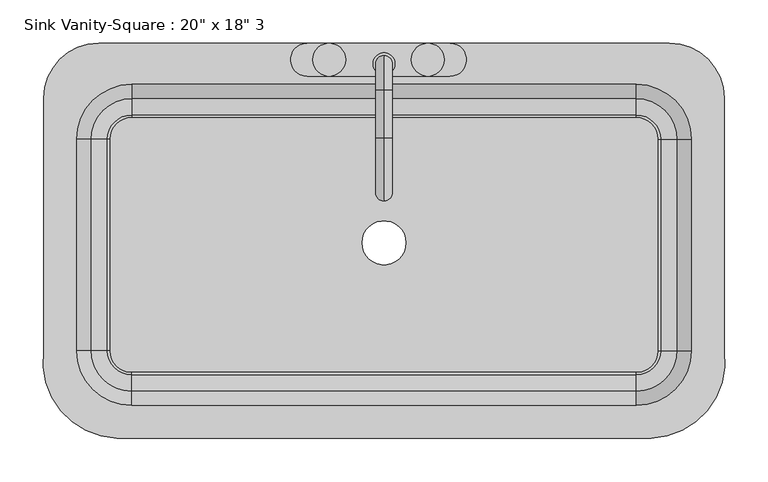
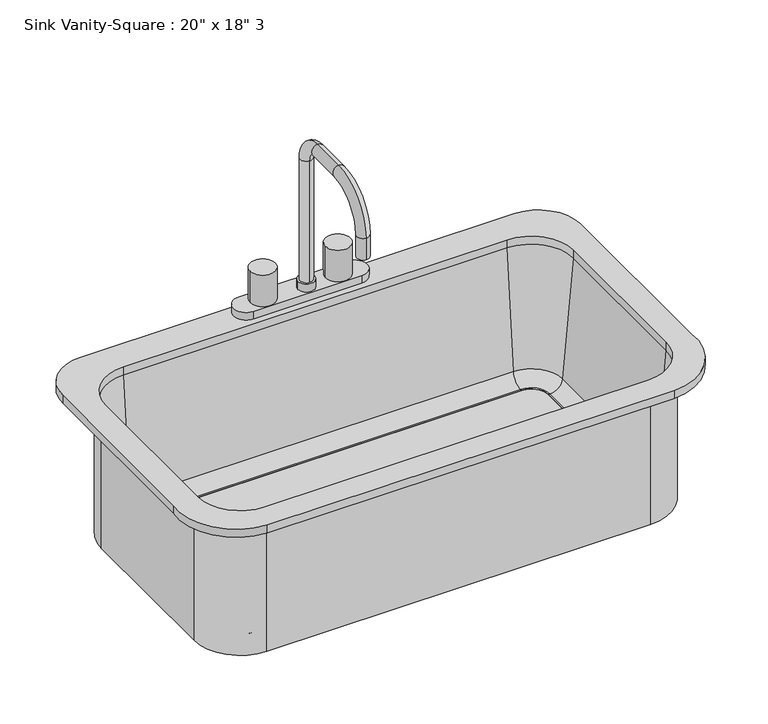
"""IFC4 building model written with IfcOpenShell, lengths in millimetres: flow terminal geometry."""

from ifc_helpers import new_model, si_unit, point, frame, frame_2d, origin, place, context, project, spatial, polyline, circle_curve, ellipse_curve, trimmed, segment, composite_curve, outline, extrude, source, transform, mapped, element, save
from ifc_brep_helpers import plane_surface, cylinder_surface, revolved_surface, advanced_brep


def flow_terminal_f29d4aba(model_context):
    return source(origin(), model_context, "Body", "SolidModel", [
        advanced_brep(
        [(-293.6606923, -277.0545989, 800.1), (325.0391735, -277.0545989, 800.1), (409.3892406, -175.4545989, 800.1), (409.3892406, 116.6454011, 800.1), (345.8892406, 180.1454011, 800.1), (-314.5107593, 180.1454011, 800.1), (-378.0107593, 116.6454011, 800.1), (-378.0107593, -175.4545982, 800.1), (307.7892406, 132.5204011, 800.1), (371.2892406, 69.0204011, 800.1), (371.2892406, -175.4545989, 800.1), (307.7892406, -238.9545989, 800.1), (-276.4107594, -238.9545989, 800.1), (-339.9107594, -175.4545989, 800.1), (-339.9107594, 69.0204011, 800.1), (-276.4107594, 132.5204011, 800.1), (-293.6606923, -277.0545989, 787.4), (-378.0107593, -175.4545982, 787.4), (-378.0107593, 116.6454011, 787.4), (-314.5107593, 180.1454011, 787.4), (345.8892406, 180.1454011, 787.4), (409.3892406, 116.6454011, 787.4), (409.3892406, -175.4545989, 787.4), (325.0391735, -277.0545989, 787.4), (377.6392406, 69.0204011, 787.4), (307.7892406, 138.8704011, 787.4), (-276.4107594, 138.8704011, 787.4), (-346.2607594, 69.0204011, 787.4), (-346.2607594, -175.4545989, 787.4), (-276.4107594, -245.3045989, 787.4), (307.7892406, -245.3045989, 787.4), (377.6392406, -175.4545989, 787.4), (307.7892406, 132.5204011, 787.4), (371.2892406, 69.0204011, 787.4), (371.2892406, -175.4545989, 787.4), (307.7892406, -238.9545989, 787.4), (-276.4107594, -238.9545989, 787.4), (-339.9107594, -175.4545989, 787.4), (-339.9107594, 69.0204011, 787.4), (-276.4107594, 132.5204011, 787.4), (377.6392406, 69.0204011, 571.5), (307.7892406, 138.8704011, 571.5), (333.1892406, 69.0204011, 571.5), (307.7892406, 94.4204011, 571.5), (333.1892406, 69.0204011, 581.025), (307.7892406, 94.4204011, 581.025), (335.7776588, 69.0204011, 581.025), (307.7892406, 97.0088193, 581.025), (354.7551678, 69.0204011, 598.4146831), (307.7892406, 115.9863283, 598.4146831), (377.6392406, -175.4545989, 571.5), (333.1892406, -175.4545989, 571.5), (333.1892406, -175.4545989, 581.025), (335.7776588, -175.4545989, 581.025), (354.7551678, -175.4545989, 598.4146831), (307.7892406, -245.3045989, 571.5), (307.7892406, -200.8545989, 571.5), (307.7892406, -200.8545989, 581.025), (307.7892406, -203.4430171, 581.025), (307.7892406, -222.4205261, 598.4146831), (-276.4107594, -245.3045989, 571.5), (-276.4107594, -200.8545989, 571.5), (-276.4107594, -200.8545989, 581.025), (-276.4107594, -203.4430171, 581.025), (-276.4107594, -222.4205261, 598.4146831), (-346.2607594, -175.4545989, 571.5), (-301.8107594, -175.4545989, 571.5), (-301.8107594, -175.4545989, 581.025), (-304.3991776, -175.4545989, 581.025), (-323.3766866, -175.4545989, 598.4146831), (-346.2607594, 69.0204011, 571.5), (-301.8107594, 69.0204011, 571.5), (-301.8107594, 69.0204011, 581.025), (-304.3991776, 69.0204011, 581.025), (-323.3766866, 69.0204011, 598.4146831), (-276.4107594, 138.8704011, 571.5), (-276.4107594, 94.4204011, 571.5), (-276.4107594, 94.4204011, 581.025), (-276.4107594, 97.0088193, 581.025), (-276.4107594, 115.9863283, 598.4146831)],
        [
            (0, 1),
            (1, 2, circle_curve(frame((321.2319557, -188.0793432, 800.1), z_axis=(0.0, 0.0, 1.0), x_axis=(1.0, 0.0, 0.0)), 89.0566732)),
            (2, 3),
            (3, 4, circle_curve(frame((345.8892406, 116.6454011, 800.1), z_axis=(0.0, 0.0, 1.0), x_axis=(1.0, 0.0, 0.0)), 63.5)),
            (4, 5),
            (5, 6, circle_curve(frame((-314.5107593, 116.6454011, 800.1), z_axis=(0.0, 0.0, 1.0), x_axis=(1.0, 0.0, 0.0)), 63.5)),
            (6, 7),
            (7, 0, circle_curve(frame((-289.8534746, -188.0793432, 800.1), z_axis=(0.0, 0.0, 1.0), x_axis=(1.0, 0.0, 0.0)), 89.0566732)),
            (8, 9, circle_curve(frame((307.7892406, 69.0204011, 800.1), z_axis=(0.0, 0.0, -1.0), x_axis=(1.0, 0.0, 0.0)), 63.5)),
            (9, 10),
            (10, 11, circle_curve(frame((307.7892406, -175.4545989, 800.1), z_axis=(0.0, 0.0, -1.0), x_axis=(1.0, 0.0, 0.0)), 63.5)),
            (11, 12),
            (12, 13, circle_curve(frame((-276.4107594, -175.4545989, 800.1), z_axis=(0.0, 0.0, -1.0), x_axis=(1.0, 0.0, 0.0)), 63.5)),
            (13, 14),
            (14, 15, circle_curve(frame((-276.4107594, 69.0204011, 800.1), z_axis=(0.0, 0.0, -1.0), x_axis=(1.0, 0.0, 0.0)), 63.5)),
            (15, 8),
            (16, 17, circle_curve(frame((-289.8534746, -188.0793432, 787.4), z_axis=(0.0, 0.0, -1.0), x_axis=(1.0, 0.0, 0.0)), 89.0566732)),
            (17, 18),
            (18, 19, circle_curve(frame((-314.5107593, 116.6454011, 787.4), z_axis=(0.0, 0.0, -1.0), x_axis=(1.0, 0.0, 0.0)), 63.5)),
            (19, 20),
            (20, 21, circle_curve(frame((345.8892406, 116.6454011, 787.4), z_axis=(0.0, 0.0, -1.0), x_axis=(1.0, 0.0, 0.0)), 63.5)),
            (21, 22),
            (22, 23, circle_curve(frame((321.2319557, -188.0793432, 787.4), z_axis=(0.0, 0.0, -1.0), x_axis=(1.0, 0.0, 0.0)), 89.0566732)),
            (23, 16),
            (24, 25, circle_curve(frame((307.7892406, 69.0204011, 787.4), z_axis=(0.0, 0.0, 1.0), x_axis=(0.0, 1.0, 0.0)), 69.85)),
            (25, 26),
            (26, 27, circle_curve(frame((-276.4107594, 69.0204011, 787.4), z_axis=(0.0, 0.0, 1.0), x_axis=(-1.0, 0.0, 0.0)), 69.85)),
            (27, 28),
            (28, 29, circle_curve(frame((-276.4107594, -175.4545989, 787.4), z_axis=(0.0, 0.0, 1.0), x_axis=(0.0, -1.0, 0.0)), 69.85)),
            (29, 30),
            (30, 31, circle_curve(frame((307.7892406, -175.4545989, 787.4), z_axis=(0.0, 0.0, 1.0), x_axis=(1.0, 0.0, 0.0)), 69.85)),
            (31, 24),
            (0, 16),
            (23, 1),
            (22, 2),
            (21, 3),
            (20, 4),
            (19, 5),
            (18, 6),
            (17, 7),
            (8, 32),
            (32, 33, circle_curve(frame((307.7892406, 69.0204011, 787.4), z_axis=(0.0, 0.0, -1.0), x_axis=(1.0, 0.0, 0.0)), 63.5)),
            (33, 9),
            (33, 34),
            (34, 10),
            (34, 35, circle_curve(frame((307.7892406, -175.4545989, 787.4), z_axis=(0.0, 0.0, -1.0), x_axis=(1.0, 0.0, 0.0)), 63.5)),
            (35, 11),
            (35, 36),
            (36, 12),
            (36, 37, circle_curve(frame((-276.4107594, -175.4545989, 787.4), z_axis=(0.0, 0.0, -1.0), x_axis=(1.0, 0.0, 0.0)), 63.5)),
            (37, 13),
            (37, 38),
            (38, 14),
            (38, 39, circle_curve(frame((-276.4107594, 69.0204011, 787.4), z_axis=(0.0, 0.0, -1.0), x_axis=(1.0, 0.0, 0.0)), 63.5)),
            (39, 15),
            (39, 32),
            (40, 41, circle_curve(frame((307.7892406, 69.0204011, 571.5), z_axis=(0.0, 0.0, 1.0), x_axis=(0.0, 1.0, 0.0)), 69.85)),
            (41, 25),
            (24, 40),
            (40, 42),
            (42, 43, circle_curve(frame((307.7892406, 69.0204011, 571.5), z_axis=(0.0, 0.0, 1.0), x_axis=(0.0, 1.0, 0.0)), 25.4)),
            (43, 41),
            (42, 44),
            (44, 45, circle_curve(frame((307.7892406, 69.0204011, 581.025), z_axis=(0.0, 0.0, 1.0), x_axis=(0.0, 1.0, 0.0)), 25.4)),
            (45, 43),
            (44, 46),
            (46, 47, circle_curve(frame((307.7892406, 69.0204011, 581.025), z_axis=(0.0, 0.0, 1.0), x_axis=(0.0, 1.0, 0.0)), 27.9884182)),
            (47, 45),
            (46, 48, circle_curve(frame((335.7776588, 69.0204011, 600.075), z_axis=(0.0, -1.0, 0.0), x_axis=(1.0, 0.0, 0.0)), 19.05)),
            (48, 49, circle_curve(frame((307.7892406, 69.0204011, 598.4146831), z_axis=(0.0, 0.0, 1.0), x_axis=(0.0, 1.0, 0.0)), 46.9659272)),
            (49, 47, circle_curve(frame((307.7892406, 97.0088193, 600.075), z_axis=(-1.0, 0.0, 0.0), x_axis=(0.0, 1.0, 0.0)), 19.05)),
            (48, 33),
            (32, 49),
            (31, 50),
            (50, 40),
            (50, 51),
            (51, 42),
            (51, 52),
            (52, 44),
            (52, 53),
            (53, 46),
            (53, 54, circle_curve(frame((335.7776588, -175.4545989, 600.075), z_axis=(0.0, -1.0, 0.0), x_axis=(1.0, 0.0, 0.0)), 19.05)),
            (54, 48),
            (54, 34),
            (30, 55),
            (55, 50, circle_curve(frame((307.7892406, -175.4545989, 571.5), z_axis=(0.0, 0.0, 1.0), x_axis=(1.0, 0.0, 0.0)), 69.85)),
            (55, 56),
            (56, 51, circle_curve(frame((307.7892406, -175.4545989, 571.5), z_axis=(0.0, 0.0, 1.0), x_axis=(1.0, 0.0, 0.0)), 25.4)),
            (56, 57),
            (57, 52, circle_curve(frame((307.7892406, -175.4545989, 581.025), z_axis=(0.0, 0.0, 1.0), x_axis=(1.0, 0.0, 0.0)), 25.4)),
            (57, 58),
            (58, 53, circle_curve(frame((307.7892406, -175.4545989, 581.025), z_axis=(0.0, 0.0, 1.0), x_axis=(1.0, 0.0, 0.0)), 27.9884182)),
            (58, 59, circle_curve(frame((307.7892406, -203.4430171, 600.075), z_axis=(-1.0, 0.0, 0.0), x_axis=(0.0, -1.0, 0.0)), 19.05)),
            (59, 54, circle_curve(frame((307.7892406, -175.4545989, 598.4146831), z_axis=(0.0, 0.0, 1.0), x_axis=(1.0, 0.0, 0.0)), 46.9659272)),
            (59, 35),
            (29, 60),
            (60, 55),
            (60, 61),
            (61, 56),
            (61, 62),
            (62, 57),
            (62, 63),
            (63, 58),
            (63, 64, circle_curve(frame((-276.4107594, -203.4430171, 600.075), z_axis=(-1.0, 0.0, 0.0), x_axis=(0.0, -1.0, 0.0)), 19.05)),
            (64, 59),
            (64, 36),
            (28, 65),
            (65, 60, circle_curve(frame((-276.4107594, -175.4545989, 571.5), z_axis=(0.0, 0.0, 1.0), x_axis=(0.0, -1.0, 0.0)), 69.85)),
            (65, 66),
            (66, 61, circle_curve(frame((-276.4107594, -175.4545989, 571.5), z_axis=(0.0, 0.0, 1.0), x_axis=(0.0, -1.0, 0.0)), 25.4)),
            (66, 67),
            (67, 62, circle_curve(frame((-276.4107594, -175.4545989, 581.025), z_axis=(0.0, 0.0, 1.0), x_axis=(0.0, -1.0, 0.0)), 25.4)),
            (67, 68),
            (68, 63, circle_curve(frame((-276.4107594, -175.4545989, 581.025), z_axis=(0.0, 0.0, 1.0), x_axis=(0.0, -1.0, 0.0)), 27.9884182)),
            (68, 69, circle_curve(frame((-304.3991776, -175.4545989, 600.075), z_axis=(0.0, 1.0, 0.0), x_axis=(-1.0, 0.0, 0.0)), 19.05)),
            (69, 64, circle_curve(frame((-276.4107594, -175.4545989, 598.4146831), z_axis=(0.0, 0.0, 1.0), x_axis=(0.0, -1.0, 0.0)), 46.9659272)),
            (69, 37),
            (27, 70),
            (70, 65),
            (70, 71),
            (71, 66),
            (71, 72),
            (72, 67),
            (72, 73),
            (73, 68),
            (73, 74, circle_curve(frame((-304.3991776, 69.0204011, 600.075), z_axis=(0.0, 1.0, 0.0), x_axis=(-1.0, 0.0, 0.0)), 19.05)),
            (74, 69),
            (74, 38),
            (26, 75),
            (75, 70, circle_curve(frame((-276.4107594, 69.0204011, 571.5), z_axis=(0.0, 0.0, 1.0), x_axis=(-1.0, 0.0, 0.0)), 69.85)),
            (75, 76),
            (76, 71, circle_curve(frame((-276.4107594, 69.0204011, 571.5), z_axis=(0.0, 0.0, 1.0), x_axis=(-1.0, 0.0, 0.0)), 25.4)),
            (76, 77),
            (77, 72, circle_curve(frame((-276.4107594, 69.0204011, 581.025), z_axis=(0.0, 0.0, 1.0), x_axis=(-1.0, 0.0, 0.0)), 25.4)),
            (77, 78),
            (78, 73, circle_curve(frame((-276.4107594, 69.0204011, 581.025), z_axis=(0.0, 0.0, 1.0), x_axis=(-1.0, 0.0, 0.0)), 27.9884182)),
            (78, 79, circle_curve(frame((-276.4107594, 97.0088193, 600.075), z_axis=(1.0, 0.0, 0.0), x_axis=(0.0, 1.0, 0.0)), 19.05)),
            (79, 74, circle_curve(frame((-276.4107594, 69.0204011, 598.4146831), z_axis=(0.0, 0.0, 1.0), x_axis=(-1.0, 0.0, 0.0)), 46.9659272)),
            (79, 39),
            (41, 75),
            (43, 76),
            (45, 77),
            (47, 78),
            (49, 79),
        ],
        [
            plane_surface(frame((325.0391735, -277.0545989, 800.1), z_axis=(0.0, 0.0, 1.0), x_axis=(1.0, 0.0, 0.0))),
            plane_surface(frame((325.0391735, -277.0545989, 787.4), z_axis=(0.0, 0.0, -1.0), x_axis=(-1.0, 0.0, 0.0))),
            plane_surface(frame((-293.6606923, -277.0545989, 800.1), z_axis=(0.0, -1.0, 0.0), x_axis=(0.0, 0.0, -1.0))),
            cylinder_surface(frame((321.2319557, -188.0793432, 787.4), z_axis=(0.0, 0.0, 1.0), x_axis=(1.0, 0.0, 0.0)), 89.0566732),
            plane_surface(frame((409.3892406, -175.4545989, 800.1), z_axis=(1.0, 0.0, 0.0), x_axis=(0.0, 0.0, -1.0))),
            cylinder_surface(frame((345.8892406, 116.6454011, 787.4), z_axis=(0.0, 0.0, 1.0), x_axis=(1.0, 0.0, 0.0)), 63.5),
            plane_surface(frame((345.8892406, 180.1454011, 800.1), z_axis=(0.0, 1.0, 0.0), x_axis=(0.0, 0.0, -1.0))),
            cylinder_surface(frame((-314.5107593, 116.6454011, 787.4), z_axis=(0.0, 0.0, 1.0), x_axis=(1.0, 0.0, 0.0)), 63.5),
            plane_surface(frame((-378.0107593, 116.6454011, 800.1), z_axis=(-1.0, 0.0, 0.0), x_axis=(0.0, 0.0, -1.0))),
            cylinder_surface(frame((-289.8534746, -188.0793432, 787.4), z_axis=(0.0, 0.0, 1.0), x_axis=(1.0, 0.0, 0.0)), 89.0566732),
            revolved_surface(polyline([(371.2892406, 69.0204011, 787.4), (371.2892406, 69.0204011, 800.1)]), (307.7892406, 69.0204011, 0.0), (0.0, 0.0, -1.0)),
            plane_surface(frame((371.2892406, 69.0204011, 800.1), z_axis=(-1.0, 0.0, 0.0), x_axis=(0.0, 0.0, -1.0))),
            revolved_surface(polyline([(371.2892406, -175.4545989, 787.4), (371.2892406, -175.4545989, 800.1)]), (307.7892406, -175.4545989, 0.0), (0.0, 0.0, -1.0)),
            plane_surface(frame((307.7892406, -238.9545989, 800.1), z_axis=(0.0, 1.0, 0.0), x_axis=(0.0, 0.0, -1.0))),
            revolved_surface(polyline([(-212.91075940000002, -175.4545989, 787.4), (-212.91075940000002, -175.4545989, 800.1)]), (-276.4107594, -175.4545989, 0.0), (0.0, 0.0, -1.0)),
            plane_surface(frame((-339.9107594, -175.4545989, 800.1), z_axis=(1.0, 0.0, 0.0), x_axis=(0.0, 0.0, -1.0))),
            revolved_surface(polyline([(-212.91075940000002, 69.0204011, 787.4), (-212.91075940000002, 69.0204011, 800.1)]), (-276.4107594, 69.0204011, 0.0), (0.0, 0.0, -1.0)),
            plane_surface(frame((-276.4107594, 132.5204011, 800.1), z_axis=(0.0, -1.0, 0.0), x_axis=(0.0, 0.0, -1.0))),
            cylinder_surface(frame((307.7892406, 69.0204011, 0.0), z_axis=(0.0, 0.0, -1.0), x_axis=(0.0, 1.0, 0.0)), 69.85),
            plane_surface(frame((307.7892406, 69.0204011, 571.5), z_axis=(0.0, 0.0, -1.0), x_axis=(0.0, 1.0, 0.0))),
            revolved_surface(polyline([(307.7892406, 94.42040109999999, 571.5), (307.7892406, 94.42040109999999, 581.025)]), (307.7892406, 69.0204011, 0.0), (0.0, 0.0, -1.0)),
            plane_surface(frame((307.7892406, 69.0204011, 581.025), z_axis=(0.0, 0.0, 1.0), x_axis=(0.0, 1.0, 0.0))),
            revolved_surface(trimmed(ellipse_curve(frame((307.7892406, 97.0088193, 600.075), z_axis=(1.0, 0.0, 0.0), x_axis=(0.0, 1.0, 0.0)), 19.05, 19.05), [point((307.7892406, 97.0088193, 581.025))], [point((307.7892406, 115.9863283, 598.4146831))], True, "CARTESIAN"), (307.7892406, 69.0204011, 0.0), (0.0, 0.0, -1.0)),
            revolved_surface(polyline([(307.7892406, 115.9863283, 598.4146831), (307.7892406, 132.5204011, 787.4)]), (307.7892406, 69.0204011, 0.0), (0.0, 0.0, -1.0)),
            plane_surface(frame((377.6392406, 69.0204011, 787.4), z_axis=(1.0, 0.0, 0.0), x_axis=(0.0, -1.0, 0.0))),
            plane_surface(frame((377.6392406, 69.0204011, 571.5), z_axis=(0.0, 0.0, -1.0), x_axis=(0.0, -1.0, 0.0))),
            plane_surface(frame((333.1892406, 69.0204011, 571.5), z_axis=(-1.0, 0.0, 0.0), x_axis=(0.0, -1.0, 0.0))),
            plane_surface(frame((333.1892406, 69.0204011, 581.025), z_axis=(0.0, 0.0, 1.0), x_axis=(0.0, -1.0, 0.0))),
            revolved_surface(polyline([(354.8276588, -175.4545989, 600.075), (354.8276588, 69.0204011, 600.075)]), (335.7776588, 69.0204011, 600.075), (0.0, -1.0, 0.0)),
            plane_surface(frame((354.7551678, 69.0204011, 598.4146831), z_axis=(-0.9961946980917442, 0.0, 0.08715574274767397), x_axis=(0.0, -1.0, 0.0))),
            cylinder_surface(frame((307.7892406, -175.4545989, 0.0), z_axis=(0.0, 0.0, -1.0), x_axis=(1.0, 0.0, 0.0)), 69.85),
            plane_surface(frame((307.7892406, -175.4545989, 571.5), z_axis=(0.0, 0.0, -1.0), x_axis=(1.0, 0.0, 0.0))),
            revolved_surface(polyline([(333.1892406, -175.4545989, 571.5), (333.1892406, -175.4545989, 581.025)]), (307.7892406, -175.4545989, 0.0), (0.0, 0.0, -1.0)),
            plane_surface(frame((307.7892406, -175.4545989, 581.025), z_axis=(0.0, 0.0, 1.0), x_axis=(1.0, 0.0, 0.0))),
            revolved_surface(trimmed(ellipse_curve(frame((335.7776588, -175.4545989, 600.075), z_axis=(0.0, -1.0, 0.0), x_axis=(1.0, 0.0, 0.0)), 19.05, 19.05), [point((335.7776588, -175.4545989, 581.025))], [point((354.7551678, -175.4545989, 598.4146831))], True, "CARTESIAN"), (307.7892406, -175.4545989, 0.0), (0.0, 0.0, -1.0)),
            revolved_surface(polyline([(354.7551678, -175.4545989, 598.4146831), (371.2892406, -175.4545989, 787.4)]), (307.7892406, -175.4545989, 0.0), (0.0, 0.0, -1.0)),
            plane_surface(frame((307.7892406, -245.3045989, 787.4), z_axis=(0.0, -1.0, 0.0), x_axis=(-1.0, 0.0, 0.0))),
            plane_surface(frame((307.7892406, -245.3045989, 571.5), z_axis=(0.0, 0.0, -1.0), x_axis=(-1.0, 0.0, 0.0))),
            plane_surface(frame((307.7892406, -200.8545989, 571.5), z_axis=(0.0, 1.0, 0.0), x_axis=(-1.0, 0.0, 0.0))),
            plane_surface(frame((307.7892406, -200.8545989, 581.025), z_axis=(0.0, 0.0, 1.0), x_axis=(-1.0, 0.0, 0.0))),
            revolved_surface(polyline([(-276.4107594, -222.4930171, 600.075), (307.7892406, -222.4930171, 600.075)]), (307.7892406, -203.4430171, 600.075), (-1.0, 0.0, 0.0)),
            plane_surface(frame((307.7892406, -222.4205261, 598.4146831), z_axis=(0.0, 0.9961946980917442, 0.08715574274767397), x_axis=(-1.0, 0.0, 0.0))),
            cylinder_surface(frame((-276.4107594, -175.4545989, 0.0), z_axis=(0.0, 0.0, -1.0), x_axis=(0.0, -1.0, 0.0)), 69.85),
            plane_surface(frame((-276.4107594, -175.4545989, 571.5), z_axis=(0.0, 0.0, -1.0), x_axis=(0.0, -1.0, 0.0))),
            revolved_surface(polyline([(-276.4107594, -200.8545989, 571.5), (-276.4107594, -200.8545989, 581.025)]), (-276.4107594, -175.4545989, 0.0), (0.0, 0.0, -1.0)),
            plane_surface(frame((-276.4107594, -175.4545989, 581.025), z_axis=(0.0, 0.0, 1.0), x_axis=(0.0, -1.0, 0.0))),
            revolved_surface(trimmed(ellipse_curve(frame((-276.4107594, -203.4430171, 600.075), z_axis=(-1.0, 0.0, 0.0), x_axis=(0.0, -1.0, 0.0)), 19.05, 19.05), [point((-276.4107594, -203.4430171, 581.025))], [point((-276.4107594, -222.4205261, 598.4146831))], True, "CARTESIAN"), (-276.4107594, -175.4545989, 0.0), (0.0, 0.0, -1.0)),
            revolved_surface(polyline([(-276.4107594, -222.4205261, 598.4146831), (-276.4107594, -238.9545989, 787.4)]), (-276.4107594, -175.4545989, 0.0), (0.0, 0.0, -1.0)),
            plane_surface(frame((-346.2607594, -175.4545989, 787.4), z_axis=(-1.0, 0.0, 0.0), x_axis=(0.0, 1.0, 0.0))),
            plane_surface(frame((-346.2607594, -175.4545989, 571.5), z_axis=(0.0, 0.0, -1.0), x_axis=(0.0, 1.0, 0.0))),
            plane_surface(frame((-301.8107594, -175.4545989, 571.5), z_axis=(1.0, 0.0, 0.0), x_axis=(0.0, 1.0, 0.0))),
            plane_surface(frame((-301.8107594, -175.4545989, 581.025), z_axis=(0.0, 0.0, 1.0), x_axis=(0.0, 1.0, 0.0))),
            revolved_surface(polyline([(-323.4491776, 69.02040110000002, 600.075), (-323.4491776, -175.4545989, 600.075)]), (-304.3991776, -175.4545989, 600.075), (0.0, 1.0, 0.0)),
            plane_surface(frame((-323.3766866, -175.4545989, 598.4146831), z_axis=(0.9961946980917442, 0.0, 0.08715574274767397), x_axis=(0.0, 1.0, 0.0))),
            cylinder_surface(frame((-276.4107594, 69.0204011, 0.0), z_axis=(0.0, 0.0, -1.0), x_axis=(-1.0, 0.0, 0.0)), 69.85),
            plane_surface(frame((-276.4107594, 69.0204011, 571.5), z_axis=(0.0, 0.0, -1.0), x_axis=(-1.0, 0.0, 0.0))),
            revolved_surface(polyline([(-301.8107594, 69.0204011, 571.5), (-301.8107594, 69.0204011, 581.025)]), (-276.4107594, 69.0204011, 0.0), (0.0, 0.0, -1.0)),
            plane_surface(frame((-276.4107594, 69.0204011, 581.025), z_axis=(0.0, 0.0, 1.0), x_axis=(-1.0, 0.0, 0.0))),
            revolved_surface(trimmed(ellipse_curve(frame((-304.3991776, 69.0204011, 600.075), z_axis=(0.0, 1.0, 0.0), x_axis=(-1.0, 0.0, 0.0)), 19.05, 19.05), [point((-304.3991776, 69.0204011, 581.025))], [point((-323.3766866, 69.0204011, 598.4146831))], True, "CARTESIAN"), (-276.4107594, 69.0204011, 0.0), (0.0, 0.0, -1.0)),
            revolved_surface(polyline([(-323.3766866, 69.0204011, 598.4146831), (-339.9107594, 69.0204011, 787.4)]), (-276.4107594, 69.0204011, 0.0), (0.0, 0.0, -1.0)),
            plane_surface(frame((-276.4107594, 138.8704011, 787.4), z_axis=(0.0, 1.0, 0.0), x_axis=(1.0, 0.0, 0.0))),
            plane_surface(frame((-276.4107594, 138.8704011, 571.5), z_axis=(0.0, 0.0, -1.0), x_axis=(1.0, 0.0, 0.0))),
            plane_surface(frame((-276.4107594, 94.4204011, 571.5), z_axis=(0.0, -1.0, 0.0), x_axis=(1.0, 0.0, 0.0))),
            plane_surface(frame((-276.4107594, 94.4204011, 581.025), z_axis=(0.0, 0.0, 1.0), x_axis=(1.0, 0.0, 0.0))),
            revolved_surface(polyline([(307.7892406, 116.0588193, 600.075), (-276.4107594, 116.0588193, 600.075)]), (-276.4107594, 97.0088193, 600.075), (1.0, 0.0, 0.0)),
            plane_surface(frame((-276.4107594, 115.9863283, 598.4146831), z_axis=(0.0, -0.9961946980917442, 0.08715574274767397), x_axis=(1.0, 0.0, 0.0))),
        ],
        [
            (0, [[1, 2, 3, 4, 5, 6, 7, 8], [9, 10, 11, 12, 13, 14, 15, 16]]),
            (1, [[17, 18, 19, 20, 21, 22, 23, 24], [25, 26, 27, 28, 29, 30, 31, 32]]),
            (2, [[-1, 33, -24, 34]]),
            (3, [[-2, -34, -23, 35]]),
            (4, [[-3, -35, -22, 36]]),
            (5, [[-4, -36, -21, 37]]),
            (6, [[-5, -37, -20, 38]]),
            (7, [[-6, -38, -19, 39]]),
            (8, [[-7, -39, -18, 40]]),
            (9, [[-8, -40, -17, -33]]),
            (10, [[-9, 41, 42, 43]]),
            (11, [[-10, -43, 44, 45]]),
            (12, [[-11, -45, 46, 47]]),
            (13, [[-12, -47, 48, 49]]),
            (14, [[-13, -49, 50, 51]]),
            (15, [[-14, -51, 52, 53]]),
            (16, [[-15, -53, 54, 55]]),
            (17, [[-16, -55, 56, -41]]),
            (18, [[57, 58, -25, 59]]),
            (19, [[-57, 60, 61, 62]]),
            (20, [[-61, 63, 64, 65]]),
            (21, [[-64, 66, 67, 68]]),
            (22, [[-67, 69, 70, 71]]),
            (23, [[-70, 72, -42, 73]]),
            (24, [[-59, -32, 74, 75]]),
            (25, [[-60, -75, 76, 77]]),
            (26, [[-63, -77, 78, 79]]),
            (27, [[-66, -79, 80, 81]]),
            (28, [[-69, -81, 82, 83]]),
            (29, [[-72, -83, 84, -44]]),
            (30, [[-74, -31, 85, 86]]),
            (31, [[-76, -86, 87, 88]]),
            (32, [[-78, -88, 89, 90]]),
            (33, [[-80, -90, 91, 92]]),
            (34, [[-82, -92, 93, 94]]),
            (35, [[-84, -94, 95, -46]]),
            (36, [[-85, -30, 96, 97]]),
            (37, [[-87, -97, 98, 99]]),
            (38, [[-89, -99, 100, 101]]),
            (39, [[-91, -101, 102, 103]]),
            (40, [[-93, -103, 104, 105]]),
            (41, [[-95, -105, 106, -48]]),
            (42, [[-96, -29, 107, 108]]),
            (43, [[-98, -108, 109, 110]]),
            (44, [[-100, -110, 111, 112]]),
            (45, [[-102, -112, 113, 114]]),
            (46, [[-104, -114, 115, 116]]),
            (47, [[-106, -116, 117, -50]]),
            (48, [[-107, -28, 118, 119]]),
            (49, [[-109, -119, 120, 121]]),
            (50, [[-111, -121, 122, 123]]),
            (51, [[-113, -123, 124, 125]]),
            (52, [[-115, -125, 126, 127]]),
            (53, [[-117, -127, 128, -52]]),
            (54, [[-118, -27, 129, 130]]),
            (55, [[-120, -130, 131, 132]]),
            (56, [[-122, -132, 133, 134]]),
            (57, [[-124, -134, 135, 136]]),
            (58, [[-126, -136, 137, 138]]),
            (59, [[-128, -138, 139, -54]]),
            (60, [[-58, 140, -129, -26]]),
            (61, [[-62, 141, -131, -140]]),
            (62, [[-65, 142, -133, -141]]),
            (63, [[-68, 143, -135, -142]]),
            (64, [[-71, 144, -137, -143]]),
            (65, [[-73, -56, -139, -144]]),
        ],
    ),
        advanced_brep(
        [(91.8892406, 180.1454011, 800.1), (91.8892406, 142.0454011, 800.1), (-73.2107594, 142.0454011, 800.1), (-73.2107594, 180.1454011, 800.1), (15.6892406, 165.8579011, 1020.7625), (15.6892406, 146.8079011, 1020.7625), (15.6892406, 146.8079011, 825.5), (15.6892406, 165.8579011, 825.5), (15.6892406, 126.1704011, 1060.45), (15.6892406, 126.1704011, 1041.4), (15.6892406, 70.6079011, 1060.45), (15.6892406, 70.6079011, 1041.4), (15.6892406, -2.4170989, 987.425), (15.6892406, 16.6329011, 987.425), (15.6892406, -2.4170989, 952.5), (15.6892406, 16.6329011, 952.5), (2.9892406, 156.3329011, 825.5), (28.3892406, 156.3329011, 825.5), (2.9892406, 156.3329011, 812.8), (28.3892406, 156.3329011, 812.8), (91.8892406, 180.1454011, 812.8), (-73.2107594, 180.1454011, 812.8), (-73.2107594, 142.0454011, 812.8), (91.8892406, 142.0454011, 812.8)],
        [
            (0, 1, circle_curve(frame((91.8892406, 161.0954011, 800.1), z_axis=(0.0, 0.0, -1.0), x_axis=(1.0, 0.0, 0.0)), 19.05)),
            (1, 2),
            (2, 3, circle_curve(frame((-73.2107594, 161.0954011, 800.1), z_axis=(0.0, 0.0, -1.0), x_axis=(1.0, 0.0, 0.0)), 19.05)),
            (3, 0),
            (4, 5, circle_curve(frame((15.6892406, 156.3329011, 1020.7625), z_axis=(0.0, 0.0, -1.0), x_axis=(0.0, -1.0, 0.0)), 9.525)),
            (5, 6),
            (6, 7, circle_curve(frame((15.6892406, 156.3329011, 825.5), z_axis=(0.0, 0.0, 1.0), x_axis=(0.0, -1.0, 0.0)), 9.525)),
            (7, 4),
            (5, 4, circle_curve(frame((15.6892406, 156.3329011, 1020.7625), z_axis=(0.0, 0.0, -1.0), x_axis=(0.0, -1.0, 0.0)), 9.525)),
            (7, 6, circle_curve(frame((15.6892406, 156.3329011, 825.5), z_axis=(0.0, 0.0, 1.0), x_axis=(0.0, -1.0, 0.0)), 9.525)),
            (4, 8, circle_curve(frame((15.6892406, 126.1704011, 1020.7625), z_axis=(1.0, 0.0, 0.0), x_axis=(0.0, 1.0, 0.0)), 39.6875)),
            (8, 9, circle_curve(frame((15.6892406, 126.1704011, 1050.925), z_axis=(0.0, 1.0, 0.0), x_axis=(0.0, 0.0, -1.0)), 9.525)),
            (9, 5, circle_curve(frame((15.6892406, 126.1704011, 1020.7625), z_axis=(-1.0, 0.0, 0.0), x_axis=(0.0, 1.0, 0.0)), 20.6375)),
            (9, 8, circle_curve(frame((15.6892406, 126.1704011, 1050.925), z_axis=(0.0, 1.0, 0.0), x_axis=(0.0, 0.0, -1.0)), 9.525)),
            (8, 10),
            (10, 11, circle_curve(frame((15.6892406, 70.6079011, 1050.925), z_axis=(0.0, 1.0, 0.0), x_axis=(0.0, 0.0, -1.0)), 9.525)),
            (11, 9),
            (11, 10, circle_curve(frame((15.6892406, 70.6079011, 1050.925), z_axis=(0.0, 1.0, 0.0), x_axis=(0.0, 0.0, -1.0)), 9.525)),
            (10, 12, circle_curve(frame((15.6892406, 70.6079011, 987.425), z_axis=(1.0, 0.0, 0.0), x_axis=(0.0, 0.0, 1.0)), 73.025)),
            (12, 13, circle_curve(frame((15.6892406, 7.1079011, 987.425), z_axis=(0.0, 0.0, 1.0), x_axis=(0.0, 1.0, 0.0)), 9.525)),
            (13, 11, circle_curve(frame((15.6892406, 70.6079011, 987.425), z_axis=(-1.0, 0.0, 0.0), x_axis=(0.0, 0.0, 1.0)), 53.975)),
            (13, 12, circle_curve(frame((15.6892406, 7.1079011, 987.425), z_axis=(0.0, 0.0, 1.0), x_axis=(0.0, 1.0, 0.0)), 9.525)),
            (14, 15, circle_curve(frame((15.6892406, 7.1079011, 952.5), z_axis=(0.0, 0.0, -1.0), x_axis=(0.0, 1.0, 0.0)), 9.525)),
            (15, 14, circle_curve(frame((15.6892406, 7.1079011, 952.5), z_axis=(0.0, 0.0, -1.0), x_axis=(0.0, 1.0, 0.0)), 9.525)),
            (12, 14),
            (15, 13),
            (16, 17, circle_curve(frame((15.6892406, 156.3329011, 825.5), z_axis=(0.0, 0.0, 1.0), x_axis=(1.0, 0.0, 0.0)), 12.7)),
            (17, 16, circle_curve(frame((15.6892406, 156.3329011, 825.5), z_axis=(0.0, 0.0, 1.0), x_axis=(1.0, 0.0, 0.0)), 12.7)),
            (16, 18),
            (18, 19, circle_curve(frame((15.6892406, 156.3329011, 812.8), z_axis=(0.0, 0.0, 1.0), x_axis=(1.0, 0.0, 0.0)), 12.7)),
            (19, 17),
            (19, 18, circle_curve(frame((15.6892406, 156.3329011, 812.8), z_axis=(0.0, 0.0, 1.0), x_axis=(1.0, 0.0, 0.0)), 12.7)),
            (20, 21),
            (21, 22, circle_curve(frame((-73.2107594, 161.0954011, 812.8), z_axis=(0.0, 0.0, 1.0), x_axis=(1.0, 0.0, 0.0)), 19.05)),
            (22, 23),
            (23, 20, circle_curve(frame((91.8892406, 161.0954011, 812.8), z_axis=(0.0, 0.0, 1.0), x_axis=(1.0, 0.0, 0.0)), 19.05)),
            (20, 0),
            (3, 21),
            (2, 22),
            (1, 23),
        ],
        [
            plane_surface(frame((15.6892406, 146.8079011, 800.1), z_axis=(0.0, 0.0, -1.0), x_axis=(1.0, 0.0, 0.0))),
            cylinder_surface(frame((15.6892406, 156.3329011, 800.1), z_axis=(0.0, 0.0, -1.0), x_axis=(0.0, -1.0, 0.0)), 9.525),
            revolved_surface(trimmed(ellipse_curve(frame((15.6892406, 156.3329011, 1020.7625), z_axis=(0.0, 0.0, -1.0), x_axis=(0.0, -1.0, 0.0)), 9.525, 9.525), [point((15.6892406, 165.8579011, 1020.7625))], [point((15.6892406, 146.8079011, 1020.7625))], True, "CARTESIAN"), (15.6892406, 126.1704011, 1020.7625), (1.0, 0.0, 0.0)),
            revolved_surface(trimmed(ellipse_curve(frame((15.6892406, 156.3329011, 1020.7625), z_axis=(0.0, 0.0, -1.0), x_axis=(0.0, -1.0, 0.0)), 9.525, 9.525), [point((15.6892406, 146.8079011, 1020.7625))], [point((15.6892406, 165.8579011, 1020.7625))], True, "CARTESIAN"), (15.6892406, 126.1704011, 1020.7625), (1.0, 0.0, 0.0)),
            cylinder_surface(frame((15.6892406, 126.1704011, 1050.925), z_axis=(0.0, 1.0, 0.0), x_axis=(0.0, 0.0, -1.0)), 9.525),
            revolved_surface(trimmed(ellipse_curve(frame((15.6892406, 70.6079011, 1050.925), z_axis=(0.0, 1.0, 0.0), x_axis=(0.0, 0.0, -1.0)), 9.525, 9.525), [point((15.6892406, 70.6079011, 1060.45))], [point((15.6892406, 70.6079011, 1041.4))], True, "CARTESIAN"), (15.6892406, 70.6079011, 987.425), (1.0, 0.0, 0.0)),
            revolved_surface(trimmed(ellipse_curve(frame((15.6892406, 70.6079011, 1050.925), z_axis=(0.0, 1.0, 0.0), x_axis=(0.0, 0.0, -1.0)), 9.525, 9.525), [point((15.6892406, 70.6079011, 1041.4))], [point((15.6892406, 70.6079011, 1060.45))], True, "CARTESIAN"), (15.6892406, 70.6079011, 987.425), (1.0, 0.0, 0.0)),
            plane_surface(frame((15.6892406, -2.4170989, 952.5), z_axis=(0.0, 0.0, -1.0), x_axis=(-1.0, 0.0, 0.0))),
            cylinder_surface(frame((15.6892406, 7.1079011, 987.425), z_axis=(0.0, 0.0, 1.0), x_axis=(0.0, 1.0, 0.0)), 9.525),
            plane_surface(frame((28.3892406, 156.3329011, 825.5), z_axis=(0.0, 0.0, 1.0), x_axis=(0.0, 1.0, 0.0))),
            cylinder_surface(frame((15.6892406, 156.3329011, 812.8), z_axis=(0.0, 0.0, 1.0), x_axis=(1.0, 0.0, 0.0)), 12.7),
            plane_surface(frame((-73.2107594, 180.1454011, 812.8), z_axis=(0.0, 0.0, 1.0), x_axis=(-1.0, 0.0, 0.0))),
            plane_surface(frame((91.8892406, 180.1454011, 812.8), z_axis=(0.0, 1.0, 0.0), x_axis=(0.0, 0.0, -1.0))),
            cylinder_surface(frame((-73.2107594, 161.0954011, 800.1), z_axis=(0.0, 0.0, 1.0), x_axis=(1.0, 0.0, 0.0)), 19.05),
            plane_surface(frame((-73.2107594, 142.0454011, 812.8), z_axis=(0.0, -1.0, 0.0), x_axis=(0.0, 0.0, -1.0))),
            cylinder_surface(frame((91.8892406, 161.0954011, 800.1), z_axis=(0.0, 0.0, 1.0), x_axis=(1.0, 0.0, 0.0)), 19.05),
        ],
        [
            (0, [[1, 2, 3, 4]]),
            (1, [[5, 6, 7, 8]]),
            (1, [[9, -8, 10, -6]]),
            (2, [[-5, 11, 12, 13]]),
            (3, [[-9, -13, 14, -11]]),
            (4, [[-12, 15, 16, 17]]),
            (4, [[-14, -17, 18, -15]]),
            (5, [[-16, 19, 20, 21]]),
            (6, [[-18, -21, 22, -19]]),
            (7, [[23, 24]]),
            (8, [[-20, 25, -24, 26]]),
            (8, [[-22, -26, -23, -25]]),
            (9, [[27, 28], [-7, -10]]),
            (10, [[-27, 29, 30, 31]]),
            (10, [[-28, -31, 32, -29]]),
            (11, [[33, 34, 35, 36], [-30, -32]]),
            (12, [[-33, 37, -4, 38]]),
            (13, [[-34, -38, -3, 39]]),
            (14, [[-35, -39, -2, 40]]),
            (15, [[-36, -40, -1, -37]]),
        ],
    ),
        extrude(outline(composite_curve([segment(trimmed(circle_curve(frame_2d((-47.8107594, 161.0954011)), 19.05), [point((-66.8607594, 161.0954011))], [point((-28.7607594, 161.0954011))], False, "CARTESIAN"), True, "CONTINUOUS"), segment(trimmed(circle_curve(frame_2d((-47.8107594, 161.0954011)), 19.05), [point((-28.7607594, 161.0954011))], [point((-66.8607594, 161.0954011))], False, "CARTESIAN"), True, "CONTINUOUS")], self_intersect=False)), frame((0.0, 0.0, 812.8), z_axis=(0.0, 0.0, 1.0), x_axis=(1.0, 0.0, 0.0)), (0.0, 0.0, 1.0), 50.8),
        extrude(outline(composite_curve([segment(trimmed(circle_curve(frame_2d((66.4892406, 161.0954011)), 19.05), [point((47.4392406, 161.0954011))], [point((85.5392406, 161.0954011))], False, "CARTESIAN"), True, "CONTINUOUS"), segment(trimmed(circle_curve(frame_2d((66.4892406, 161.0954011)), 19.05), [point((85.5392406, 161.0954011))], [point((47.4392406, 161.0954011))], False, "CARTESIAN"), True, "CONTINUOUS")], self_intersect=False)), frame((0.0, 0.0, 812.8), z_axis=(0.0, 0.0, 1.0), x_axis=(1.0, 0.0, 0.0)), (0.0, 0.0, 1.0), 50.8),
        extrude(outline(composite_curve([segment(trimmed(circle_curve(frame_2d((307.7892406, 69.0204011)), 25.4), [point((307.7892406, 94.4204011))], [point((333.1892406, 69.0204011))], False, "CARTESIAN"), True, "CONTINUOUS"), segment(polyline([(333.1892406, 69.0204011), (333.1892406, -175.4545989)]), True, "CONTINUOUS"), segment(trimmed(circle_curve(frame_2d((307.7892406, -175.4545989)), 25.4), [point((333.1892406, -175.4545989))], [point((307.7892406, -200.8545989))], False, "CARTESIAN"), True, "CONTINUOUS"), segment(polyline([(307.7892406, -200.8545989), (-276.4107594, -200.8545989)]), True, "CONTINUOUS"), segment(trimmed(circle_curve(frame_2d((-276.4107594, -175.4545989)), 25.4), [point((-276.4107594, -200.8545989))], [point((-301.8107594, -175.4545989))], False, "CARTESIAN"), True, "CONTINUOUS"), segment(polyline([(-301.8107594, -175.4545989), (-301.8107594, 69.0204011)]), True, "CONTINUOUS"), segment(trimmed(circle_curve(frame_2d((-276.4107594, 69.0204011)), 25.4), [point((-301.8107594, 69.0204011))], [point((-276.4107594, 94.4204011))], False, "CARTESIAN"), True, "CONTINUOUS"), segment(polyline([(-276.4107594, 94.4204011), (307.7892406, 94.4204011)]), True, "CONTINUOUS")], self_intersect=False), holes=[composite_curve([segment(trimmed(circle_curve(frame_2d((15.6892406, -50.8)), 25.4), [point((-9.7107594, -50.8))], [point((41.0892406, -50.8))], True, "CARTESIAN"), True, "CONTINUOUS"), segment(trimmed(circle_curve(frame_2d((15.6892406, -50.8)), 25.4), [point((41.0892406, -50.8))], [point((-9.7107594, -50.8))], True, "CARTESIAN"), True, "CONTINUOUS")], self_intersect=False)]), frame((0.0, 0.0, 571.5), z_axis=(0.0, 0.0, 1.0), x_axis=(1.0, 0.0, 0.0)), (0.0, 0.0, 1.0), 9.525),
    ])


if __name__ == "__main__":
    model = new_model("IFC4")
    model_context = context("Model", 3, world=origin())
    ifc_project = project(units=[si_unit("LENGTHUNIT", "METRE", prefix="MILLI")], contexts=[model_context])
    site = spatial("IfcSite", under=ifc_project)
    building = spatial("IfcBuilding", under=site)
    placement = place(None, origin())
    flow_terminal_shape = flow_terminal_f29d4aba(model_context)
    element("IfcFlowTerminal", 1, ObjectType="Sink Vanity-Square : 20\" x 18\" 3", at=placement, inside=building, context=model_context, shape_type="MappedRepresentation", body=[
        mapped(flow_terminal_shape, transform((0.0, 0.0, 0.0), x_axis=(1.0, 0.0, 0.0), y_axis=(0.0, 1.0, 0.0), z_axis=(0.0, 0.0, 1.0))),
    ])
    save(model, "model.ifc")
